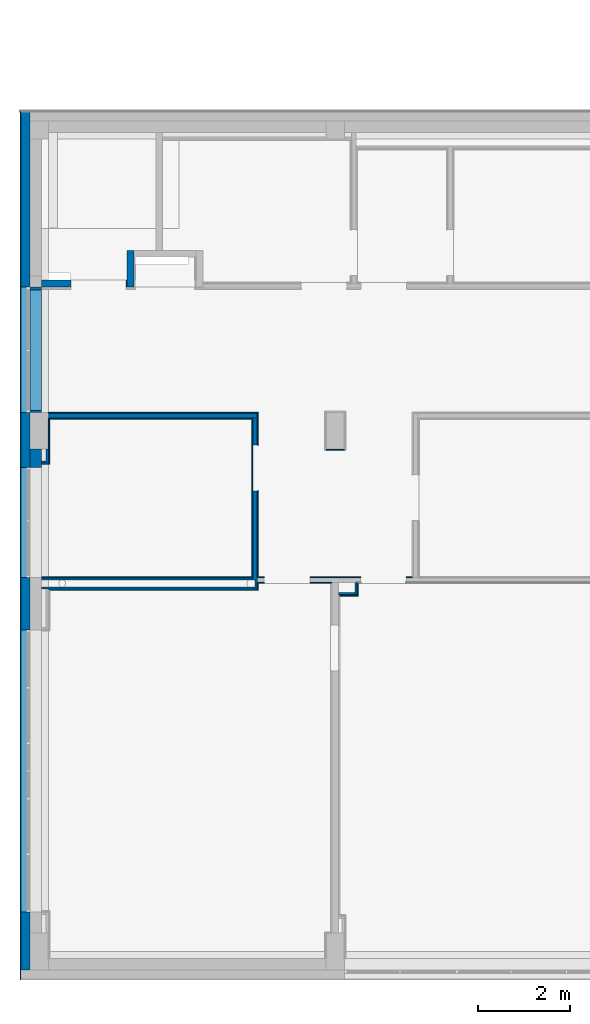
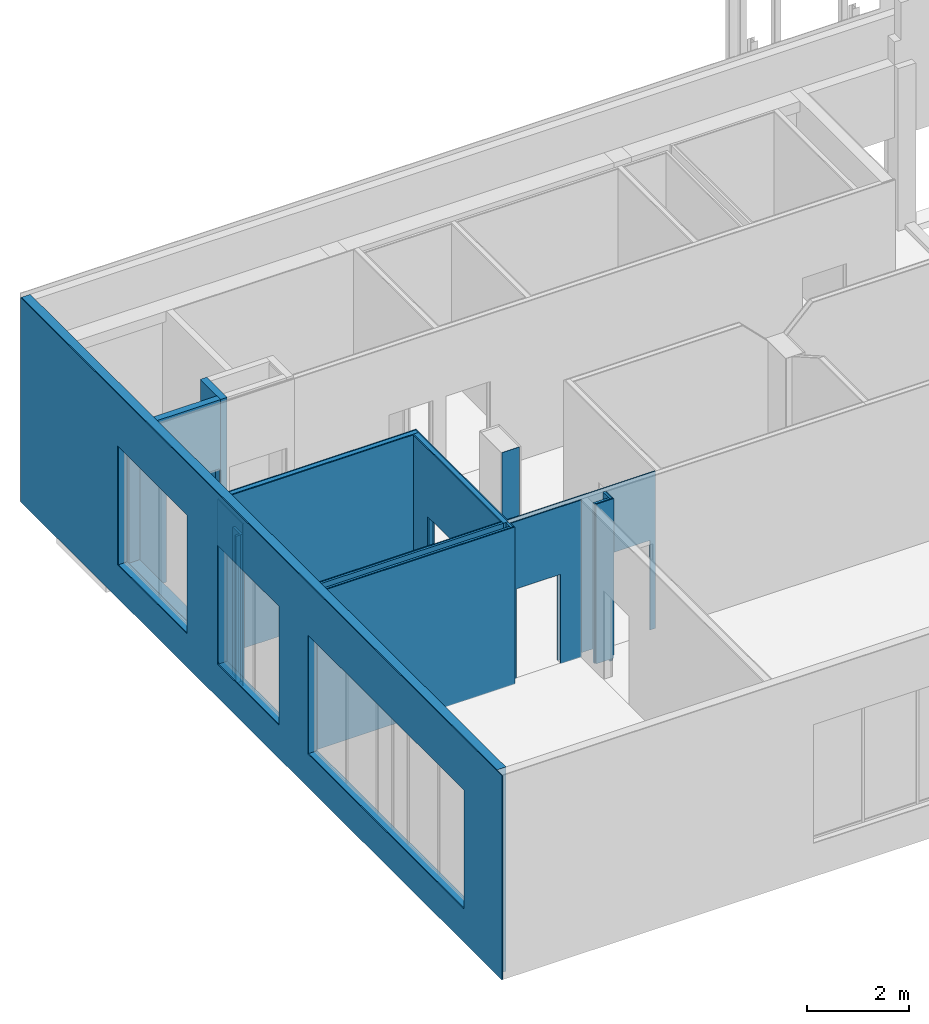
# One storey, part 17 of 29: 29 walls, 15 openings.
"""IFC2X3 building model written with IfcOpenShell, lengths in centimetres."""

from ifc_helpers import new_model, entity, si_unit, converted_unit, derived_unit, direction, frame, frame_2d, origin, origin_2d_with_axis, place, context, subcontext, project, spatial, polyline, rectangle, extrude, clip, bounded_halfspace, material, layer, layer_set, layer_usage, type_object, element, save


model = new_model("IFC2X3")

# Units and contexts
model_context = context("Model", 3, precision=0.001, world=origin(), true_north=direction((6.12303176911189e-17, 1.0)))
body_context = subcontext(model_context, "Body", "Model", "MODEL_VIEW")
ifc_project = project(units=[si_unit("LENGTHUNIT", "METRE", prefix="CENTI"), si_unit("AREAUNIT", "SQUARE_METRE"), si_unit("VOLUMEUNIT", "CUBIC_METRE"), converted_unit("PLANEANGLEUNIT", "DEGREE", entity("IfcRatioMeasure", 0.0174532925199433), si_unit("PLANEANGLEUNIT", "RADIAN"), dimensions=[0, 0, 0, 0, 0, 0, 0]), si_unit("MASSUNIT", "GRAM", prefix="KILO"), derived_unit("MASSDENSITYUNIT", [(si_unit("MASSUNIT", "GRAM", prefix="KILO"), 1), (si_unit("LENGTHUNIT", "METRE"), -3)]), derived_unit("MOMENTOFINERTIAUNIT", [(si_unit("LENGTHUNIT", "METRE"), 4)]), si_unit("TIMEUNIT", "SECOND"), si_unit("FREQUENCYUNIT", "HERTZ"), si_unit("THERMODYNAMICTEMPERATUREUNIT", "DEGREE_CELSIUS"), derived_unit("THERMALTRANSMITTANCEUNIT", [(si_unit("MASSUNIT", "GRAM", prefix="KILO"), 1), (si_unit("THERMODYNAMICTEMPERATUREUNIT", "KELVIN"), -1), (si_unit("TIMEUNIT", "SECOND"), -3)]), derived_unit("VOLUMETRICFLOWRATEUNIT", [(si_unit("LENGTHUNIT", "METRE"), 3), (si_unit("TIMEUNIT", "SECOND"), -1)]), si_unit("ELECTRICCURRENTUNIT", "AMPERE"), si_unit("ELECTRICVOLTAGEUNIT", "VOLT"), si_unit("POWERUNIT", "WATT"), si_unit("FORCEUNIT", "NEWTON", prefix="KILO"), si_unit("ILLUMINANCEUNIT", "LUX"), si_unit("LUMINOUSFLUXUNIT", "LUMEN"), si_unit("LUMINOUSINTENSITYUNIT", "CANDELA"), derived_unit("USERDEFINED", [(si_unit("MASSUNIT", "GRAM", prefix="KILO"), -1), (si_unit("LENGTHUNIT", "METRE"), -2), (si_unit("TIMEUNIT", "SECOND"), 3), (si_unit("LUMINOUSFLUXUNIT", "LUMEN"), 1)]), derived_unit("LINEARVELOCITYUNIT", [(si_unit("LENGTHUNIT", "METRE"), 1), (si_unit("TIMEUNIT", "SECOND"), -1)]), si_unit("PRESSUREUNIT", "PASCAL"), derived_unit("USERDEFINED", [(si_unit("LENGTHUNIT", "METRE"), -2), (si_unit("MASSUNIT", "GRAM", prefix="KILO"), 1), (si_unit("TIMEUNIT", "SECOND"), -2)]), derived_unit("LINEARFORCEUNIT", [(si_unit("MASSUNIT", "GRAM", prefix="KILO"), 1), (si_unit("LENGTHUNIT", "METRE"), 1), (si_unit("TIMEUNIT", "SECOND"), -2), (si_unit("LENGTHUNIT", "METRE"), -1)]), derived_unit("PLANARFORCEUNIT", [(si_unit("MASSUNIT", "GRAM", prefix="KILO"), 1), (si_unit("LENGTHUNIT", "METRE"), 1), (si_unit("TIMEUNIT", "SECOND"), -2), (si_unit("LENGTHUNIT", "METRE"), -2)])], contexts=[model_context])

# Site, building, storey
site_placement = place(None, origin())
site = spatial("IfcSite", under=ifc_project, at=site_placement, Name="Default", CompositionType="ELEMENT")
building_placement = place(site_placement, origin())
building = spatial("IfcBuilding", under=site, at=building_placement, CompositionType="ELEMENT")
storey_placement = place(building_placement, frame((0.0, 0.0, 545.0)))
storey = spatial("IfcBuildingStorey", under=building, at=storey_placement, Name="Poziom 1K +5,45", CompositionType="ELEMENT", Elevation=544.999999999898)

# Wall
ifc_material_1 = material(Name="_Beton C30/37")
ifc_layer_1 = layer(ifc_material_1, 25.0)
ifc_layer_set_1 = layer_set([ifc_layer_1], Name="Ściana podstawowa:Ściana żelbetowa gr. 25cm")
ifc_layer_usage_1 = layer_usage(ifc_layer_set_1, "AXIS2", "NEGATIVE", 12.5)
wall_type_1 = type_object("IfcWallType", Name="Ściana podstawowa:Ściana żelbetowa gr. 25cm", PredefinedType="STANDARD", material=ifc_layer_set_1)
wall_1_placement = place(storey_placement, frame((-2921.76510381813, 1390.12745208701, 0.0), z_axis=(0.0, 0.0, 1.0), x_axis=(0.0, -1.0, 0.0)))
element("IfcWallStandardCase", 1, at=wall_1_placement, inside=storey, type_object=wall_type_1, material=ifc_layer_usage_1, Name="Ściana podstawowa:Ściana żelbetowa gr. 25cm", ObjectType="Ściana podstawowa:Ściana żelbetowa gr. 25cm", context=body_context, shape_type="SweptSolid", body=[
    extrude(rectangle(XDim=40.0, YDim=25.0000000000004, at=frame_2d((20.0, 0.0), x_axis=(-1.0, 0.0))), origin(), (0.0, 0.0, 1.0), 365.000000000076),
])

# Wall, opening
ifc_material_2 = material(Name="Pustak ceramiczny, klasa 15")
ifc_layer_2 = layer(ifc_material_2, 25.0)
ifc_layer_set_2 = layer_set([ifc_layer_2], Name="Ściana podstawowa:Ściana murowana gr. 25cm")
ifc_layer_usage_2 = layer_usage(ifc_layer_set_2, "AXIS2", "POSITIVE", -12.5)
wall_type_2 = type_object("IfcWallType", Name="Ściana podstawowa:Ściana murowana gr. 25cm", PredefinedType="STANDARD", material=ifc_layer_set_2)
wall_2_placement = place(storey_placement, frame((-2921.76510657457, 1743.1274520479, 0.0), z_axis=(0.0, 0.0, 1.0), x_axis=(0.0, -1.0, 0.0)))
wall_2 = element("IfcWallStandardCase", 2, at=wall_2_placement, inside=storey, type_object=wall_type_2, material=ifc_layer_usage_2, Name="Ściana podstawowa:Ściana murowana gr. 25cm", ObjectType="Ściana podstawowa:Ściana murowana gr. 25cm", context=body_context, shape_type="SweptSolid", body=[
    extrude(rectangle(XDim=272.999999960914, YDim=25.0000000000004, at=frame_2d((136.499999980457, -1.77635683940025e-14), x_axis=(-1.0, 0.0))), origin(), (0.0, 0.0, 1.0), 365.000000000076),
])
opening_1_placement = place(wall_2_placement, origin())
element("IfcOpeningElement", 3, at=opening_1_placement, cuts=wall_2, Name="Ściana podstawowa:Ściana murowana gr. 25cm", ObjectType="Opening", context=body_context, shape_type="SweptSolid", body=[
    extrude(rectangle(XDim=285.0, YDim=263.0, at=origin_2d_with_axis()), frame((137.5, -139.9, 222.5), z_axis=(0.0, 1.0, 0.0), x_axis=(0.0, 0.0, -1.0)), (0.0, 0.0, 1.0), 304.8),
])

# Wall
ifc_material_3 = material(Name="Pustak silikatowy")
ifc_layer_3 = layer(ifc_material_3, 15.0)
ifc_layer_set_3 = layer_set([ifc_layer_3], Name="Ściana podstawowa:Ściana murowana bloczki silikatowegr. 15cm")
ifc_layer_usage_3 = layer_usage(ifc_layer_set_3, "AXIS2", "NEGATIVE", 7.5)
wall_type_3 = type_object("IfcWallType", Name="Ściana podstawowa:Ściana murowana bloczki silikatowegr. 15cm", PredefinedType="STANDARD", material=ifc_layer_set_3)
wall_3_placement = place(storey_placement, frame((-2715.26510446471, 1823.12745160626, 0.0), z_axis=(0.0, 0.0, 1.0), x_axis=(0.0, -1.0, 0.0)))
element("IfcWallStandardCase", 4, at=wall_3_placement, inside=storey, type_object=wall_type_3, material=ifc_layer_usage_3, Name="Ściana podstawowa:Ściana murowana bloczki silikatowegr. 15cm", ObjectType="Ściana podstawowa:Ściana murowana bloczki silikatowegr. 15cm", context=body_context, shape_type="SweptSolid", body=[
    extrude(rectangle(XDim=80.0000000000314, YDim=15.0000000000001, at=frame_2d((40.0000000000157, 6.70574706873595e-14), x_axis=(-1.0, 0.0))), origin(), (0.0, 0.0, 1.0), 395.000000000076),
])

# Wall, opening
ifc_layer_usage_4 = layer_usage(ifc_layer_set_3, "AXIS2", "NEGATIVE", 7.5)
wall_4_placement = place(storey_placement, frame((-2909.26510657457, 1750.62745160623, 0.0)))
wall_4 = element("IfcWallStandardCase", 5, at=wall_4_placement, inside=storey, type_object=wall_type_3, material=ifc_layer_usage_4, Name="Ściana podstawowa:Ściana murowana bloczki silikatowegr. 15cm", ObjectType="Ściana podstawowa:Ściana murowana bloczki silikatowegr. 15cm", context=body_context, shape_type="Clipping", body=[
    clip(clip(extrude(rectangle(XDim=186.500002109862, YDim=15.0000000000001, at=frame_2d((93.2500010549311, 1.00364161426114e-13), x_axis=(-1.0, 0.0))), origin(), (0.0, 0.0, 1.0), 395.000000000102), bounded_halfspace(frame((15.0000028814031, -7.49999999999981, 365.0), z_axis=(-1.0, 0.0, 0.0), x_axis=(0.0, 0.0, -1.0)), False, frame((15.0000028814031, -7.49999999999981, 365.0), z_axis=(-1.0, 0.0, 0.0), x_axis=(0.0, 0.0, -1.0)), polyline([(0.0, 0.0), (-30.0, 0.0), (-30.0, -15.0), (0.0, -15.0), (0.0, -12.0000004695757), (0.0, 0.0)]))), bounded_halfspace(frame((15.0000028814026, -7.49999999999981, 365.0), z_axis=(0.0, 0.0, 1.0), x_axis=(-1.0, 0.0, 0.0)), False, frame((15.0000028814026, -7.49999999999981, 365.0), z_axis=(0.0, 0.0, 1.0), x_axis=(-1.0, 0.0, 0.0)), polyline([(0.0, 0.0), (0.0, -12.0000004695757), (0.0, -15.0), (15.0000028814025, -15.0), (15.0000028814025, -12.0000004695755), (15.0000028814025, 0.0), (0.0, 0.0)]))),
])
opening_2_placement = place(wall_4_placement, origin())
element("IfcOpeningElement", 6, at=opening_2_placement, cuts=wall_4, Name="Ściana podstawowa:Ściana murowana bloczki silikatowegr. 15cm", ObjectType="Opening", context=body_context, shape_type="SweptSolid", body=[
    extrude(rectangle(XDim=230.0, YDim=120.0, at=frame_2d((-4.9737991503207e-14, -2.16715534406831e-13), x_axis=(1.0, 0.0))), frame((124.000002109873, -144.9, 115.0), z_axis=(0.0, 1.0, 0.0), x_axis=(0.0, 0.0, -1.0)), (0.0, 0.0, 1.0), 304.8),
])

# Wall
ifc_material_4 = material(Name="Wełna skalna")
ifc_layer_4 = layer(ifc_material_4, 10.0)
ifc_layer_set_4 = layer_set([ifc_layer_4], Name="Ściana podstawowa:Ściana GK rdzeń gr. 10cm")
ifc_layer_usage_5 = layer_usage(ifc_layer_set_4, "AXIS2", "NEGATIVE", 5.0)
wall_type_4 = type_object("IfcWallType", Name="Ściana podstawowa:Ściana GK rdzeń gr. 10cm", PredefinedType="STANDARD", material=ifc_layer_set_4)
wall_5_placement = place(storey_placement, frame((-2894.26510657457, 1462.62745216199, 13.0)))
element("IfcWallStandardCase", 7, at=wall_5_placement, inside=storey, type_object=wall_type_4, material=ifc_layer_usage_5, Name="Ściana podstawowa:Ściana GK rdzeń gr. 10cm", ObjectType="Ściana podstawowa:Ściana GK rdzeń gr. 10cm", context=body_context, shape_type="SweptSolid", body=[
    extrude(rectangle(XDim=454.999980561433, YDim=9.99999999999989, at=frame_2d((227.499990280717, 0.0), x_axis=(-1.0, 0.0))), origin(), (0.0, 0.0, 1.0), 377.000000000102),
])

# Wall, opening
ifc_layer_usage_6 = layer_usage(ifc_layer_set_4, "AXIS2", "POSITIVE", -5.0)
wall_6_placement = place(storey_placement, frame((-2444.26512601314, 1457.62745216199, 13.0), z_axis=(0.0, 0.0, 1.0), x_axis=(0.0, -1.0, 0.0)))
wall_6 = element("IfcWallStandardCase", 8, at=wall_6_placement, inside=storey, type_object=wall_type_4, material=ifc_layer_usage_6, Name="Ściana podstawowa:Ściana GK rdzeń gr. 10cm", ObjectType="Ściana podstawowa:Ściana GK rdzeń gr. 10cm", context=body_context, shape_type="SweptSolid", body=[
    extrude(rectangle(XDim=352.999999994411, YDim=10.0000000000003, at=frame_2d((176.499999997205, -3.10862446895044e-15), x_axis=(-1.0, 0.0))), origin(), (0.0, 0.0, 1.0), 377.000000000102),
])
opening_3_placement = place(wall_6_placement, origin())
element("IfcOpeningElement", 9, at=opening_3_placement, cuts=wall_6, Name="Ściana podstawowa:Ściana GK rdzeń gr. 10cm", ObjectType="Opening", context=body_context, shape_type="SweptSolid", body=[
    extrude(rectangle(XDim=215.0, YDim=100.0, at=frame_2d((0.0, 1.06581410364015e-13), x_axis=(1.0, 0.0))), frame((108.908447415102, -147.4, 107.5), z_axis=(0.0, 1.0, 0.0), x_axis=(0.0, 0.0, -1.0)), (0.0, 0.0, 1.0), 304.8),
])

# Walls
ifc_layer_5 = layer(ifc_material_4, 5.0)
ifc_layer_set_5 = layer_set([ifc_layer_5], Name="Ściana podstawowa:Ściana GK rdzeń gr. 5cm")
ifc_layer_usage_7 = layer_usage(ifc_layer_set_5, "AXIS2", "NEGATIVE", 2.5)
wall_type_5 = type_object("IfcWallType", Name="Ściana podstawowa:Ściana GK rdzeń gr. 5cm", PredefinedType="STANDARD", material=ifc_layer_set_5)
wall_7_placement = place(storey_placement, frame((-2909.26510381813, 1087.12745217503, 13.0)))
element("IfcWallStandardCase", 10, at=wall_7_placement, inside=storey, type_object=wall_type_5, material=ifc_layer_usage_7, Name="Ściana podstawowa:Ściana GK rdzeń gr. 5cm", ObjectType="Ściana podstawowa:Ściana GK rdzeń gr. 5cm", context=body_context, shape_type="Clipping", body=[
    clip(clip(extrude(rectangle(XDim=464.99997780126, YDim=5.00000000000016, at=frame_2d((232.49998890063, 0.0), x_axis=(-1.0, 0.0))), origin(), (0.0, 0.0, 1.0), 377.000000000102), bounded_halfspace(frame((15.0000001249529, 2.50000000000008, 352.0), z_axis=(-1.0, 0.0, 0.0), x_axis=(0.0, 0.0, -1.0)), False, frame((15.0000001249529, 2.50000000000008, 352.0), z_axis=(-1.0, 0.0, 0.0), x_axis=(0.0, 0.0, -1.0)), polyline([(0.0, 0.0), (0.0, 5.0), (-25.0, 5.0), (-25.0, 0.0), (0.0, 0.0)]))), bounded_halfspace(frame((15.0000001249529, -2.49999999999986, 352.0), z_axis=(0.0, 0.0, 1.0), x_axis=(-1.0, 0.0, 0.0)), False, frame((15.0000001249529, -2.49999999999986, 352.0), z_axis=(0.0, 0.0, 1.0), x_axis=(-1.0, 0.0, 0.0)), polyline([(0.0, 0.0), (0.0, -5.0), (15.000000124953, -5.0), (15.000000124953, 0.0), (0.0, 0.0)]))),
])
ifc_layer_usage_8 = layer_usage(ifc_layer_set_5, "AXIS2", "NEGATIVE", 2.5)
wall_8_placement = place(storey_placement, frame((-2441.76512601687, 1084.62745217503, 13.0), z_axis=(0.0, 0.0, 1.0), x_axis=(0.0, 1.0, 0.0)))
element("IfcWallStandardCase", 11, at=wall_8_placement, inside=storey, type_object=wall_type_5, material=ifc_layer_usage_8, Name="Ściana podstawowa:Ściana GK rdzeń gr. 5cm", ObjectType="Ściana podstawowa:Ściana GK rdzeń gr. 5cm", context=body_context, shape_type="SweptSolid", body=[
    extrude(rectangle(XDim=19.9999999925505, YDim=4.99999999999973, at=frame_2d((9.99999999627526, 0.0), x_axis=(-1.0, 0.0))), origin(), (0.0, 0.0, 1.0), 377.000000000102),
])
ifc_layer_usage_9 = layer_usage(ifc_layer_set_5, "AXIS2", "NEGATIVE", 2.5)
wall_9_placement = place(storey_placement, frame((-2909.26510657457, 1107.12745216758, 13.0)))
element("IfcWallStandardCase", 12, at=wall_9_placement, inside=storey, type_object=wall_type_5, material=ifc_layer_usage_9, Name="Ściana podstawowa:Ściana GK rdzeń gr. 5cm", ObjectType="Ściana podstawowa:Ściana GK rdzeń gr. 5cm", context=body_context, shape_type="Clipping", body=[
    clip(clip(extrude(rectangle(XDim=459.999980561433, YDim=5.00000000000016, at=frame_2d((229.999990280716, 0.0), x_axis=(-1.0, 0.0))), origin(), (0.0, 0.0, 1.0), 377.000000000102), bounded_halfspace(frame((15.0000028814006, 2.50000000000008, 352.0), z_axis=(-1.0, 0.0, 0.0), x_axis=(0.0, 0.0, -1.0)), False, frame((15.0000028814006, 2.50000000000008, 352.0), z_axis=(-1.0, 0.0, 0.0), x_axis=(0.0, 0.0, -1.0)), polyline([(0.0, 0.0), (0.0, 5.0), (-25.0, 5.0), (-25.0, 0.0), (0.0, 0.0)]))), bounded_halfspace(frame((15.0000028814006, -2.49999999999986, 352.0), z_axis=(0.0, 0.0, 1.0), x_axis=(-1.0, 0.0, 0.0)), False, frame((15.0000028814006, -2.49999999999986, 352.0), z_axis=(0.0, 0.0, 1.0), x_axis=(-1.0, 0.0, 0.0)), polyline([(0.0, 0.0), (0.0, -5.0), (15.0000028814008, -5.0), (15.0000028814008, 0.0), (0.0, 0.0)]))),
])
ifc_layer_usage_10 = layer_usage(ifc_layer_set_5, "AXIS2", "NEGATIVE", 2.5)
wall_10_placement = place(storey_placement, frame((-2261.7651206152, 1074.62745215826, 7.0)))
element("IfcWallStandardCase", 13, at=wall_10_placement, inside=storey, type_object=wall_type_5, material=ifc_layer_usage_10, Name="Ściana podstawowa:Ściana GK rdzeń gr. 5cm", ObjectType="Ściana podstawowa:Ściana GK rdzeń gr. 5cm", context=body_context, shape_type="Clipping", body=[
    clip(extrude(rectangle(XDim=35.0000054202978, YDim=5.00000000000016, at=frame_2d((17.5000027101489, 0.0), x_axis=(-1.0, 0.0))), origin(), (0.0, 0.0, 1.0), 383.000000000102), bounded_halfspace(frame((35.0000054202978, -2.49999999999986, 0.0), z_axis=(0.0, 0.0, 1.0), x_axis=(0.0, -1.0, 0.0)), True, frame((35.0000054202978, -2.49999999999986, 0.0), z_axis=(0.0, 0.0, 1.0), x_axis=(0.0, -1.0, 0.0)), polyline([(0.0, 0.0), (-5.0, 0.0), (-5.0, -35.0000054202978), (0.0, -35.0000054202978), (0.0, -32.5000054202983), (0.0, 0.0)]))),
])
ifc_layer_usage_11 = layer_usage(ifc_layer_set_5, "AXIS2", "NEGATIVE", 2.5)
wall_11_placement = place(storey_placement, frame((-2224.2651151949, 1072.12745215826, 0.0), z_axis=(0.0, 0.0, 1.0), x_axis=(0.0, 1.0, 0.0)))
element("IfcWallStandardCase", 14, at=wall_11_placement, inside=storey, type_object=wall_type_5, material=ifc_layer_usage_11, Name="Ściana podstawowa:Ściana GK rdzeń gr. 5cm", ObjectType="Ściana podstawowa:Ściana GK rdzeń gr. 5cm", context=body_context, shape_type="SweptSolid", body=[
    extrude(rectangle(XDim=27.5000000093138, YDim=4.99999999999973, at=frame_2d((13.7500000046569, 0.0), x_axis=(-1.0, 0.0))), origin(), (0.0, 0.0, 1.0), 390.000000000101),
])
ifc_layer_usage_12 = layer_usage(ifc_layer_set_5, "AXIS2", "NEGATIVE", 2.5)
wall_12_placement = place(storey_placement, frame((-2896.76511742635, 1390.12745210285, 13.0), z_axis=(0.0, 0.0, 1.0), x_axis=(0.0, -1.0, 0.0)))
element("IfcWallStandardCase", 15, at=wall_12_placement, inside=storey, type_object=wall_type_5, material=ifc_layer_usage_12, Name="Ściana podstawowa:Ściana GK rdzeń gr. 5cm", ObjectType="Ściana podstawowa:Ściana GK rdzeń gr. 5cm", context=body_context, shape_type="Clipping", body=[
    clip(extrude(rectangle(XDim=31.0000015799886, YDim=4.99999999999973, at=frame_2d((15.5000007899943, 0.0), x_axis=(-1.0, 0.0))), origin(), (0.0, 0.0, 1.0), 351.99999999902), bounded_halfspace(frame((0.0, -2.5000000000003, 352.0), z_axis=(0.0, 0.0, 1.0), x_axis=(0.0, -1.0, 0.0)), False, frame((0.0, -2.5000000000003, 352.0), z_axis=(0.0, 0.0, 1.0), x_axis=(0.0, -1.0, 0.0)), polyline([(0.0, 0.0), (0.0, 31.0000015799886), (-5.0, 31.0000015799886), (-5.0, 0.0), (0.0, 0.0)]))),
])
ifc_layer_usage_13 = layer_usage(ifc_layer_set_5, "AXIS2", "NEGATIVE", 2.5)
wall_13_placement = place(storey_placement, frame((-2899.26511742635, 1361.62745234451, 13.0), z_axis=(0.0, 0.0, 1.0), x_axis=(-1.0, 0.0, 0.0)))
element("IfcWallStandardCase", 16, at=wall_13_placement, inside=storey, type_object=wall_type_5, material=ifc_layer_usage_13, Name="Ściana podstawowa:Ściana GK rdzeń gr. 5cm", ObjectType="Ściana podstawowa:Ściana GK rdzeń gr. 5cm", context=body_context, shape_type="Clipping", body=[
    clip(extrude(rectangle(XDim=9.99998639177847, YDim=5.00000000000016, at=frame_2d((4.99999319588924, 0.0), x_axis=(-1.0, 0.0))), origin(), (0.0, 0.0, 1.0), 351.99999999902), bounded_halfspace(frame((0.0, -2.49999999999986, 352.0)), False, frame((0.0, -2.49999999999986, 352.0)), polyline([(0.0, 0.0), (9.99998639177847, 0.0), (9.99998639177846, 5.0), (0.0, 5.0), (0.0, 0.0)]))),
])
ifc_material_5 = material(Name="Tynk gipsowy")
ifc_layer_6 = layer(ifc_material_5, 2.5)
ifc_layer_set_6 = layer_set([ifc_layer_6], Name="Ściana podstawowa:Ściana GK wykonczenie gr. 2,5cm")
ifc_layer_usage_14 = layer_usage(ifc_layer_set_6, "AXIS2", "NEGATIVE", 1.25)
wall_type_6 = type_object("IfcWallType", Name="Ściana podstawowa:Ściana GK wykonczenie gr. 2,5cm", PredefinedType="STANDARD", material=ifc_layer_set_6)
wall_14_placement = place(storey_placement, frame((-2894.26510657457, 1468.87745208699, 13.0)))
element("IfcWallStandardCase", 17, at=wall_14_placement, inside=storey, type_object=wall_type_6, material=ifc_layer_usage_14, Name="Ściana podstawowa:Ściana GK wykonczenie gr. 2,5cm", ObjectType="Ściana podstawowa:Ściana GK wykonczenie gr. 2,5cm", context=body_context, shape_type="SweptSolid", body=[
    extrude(rectangle(XDim=457.499980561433, YDim=2.49999999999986, at=frame_2d((228.749990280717, 0.0), x_axis=(-1.0, 0.0))), origin(), (0.0, 0.0, 1.0), 377.000000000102),
])

# Wall, opening
ifc_layer_usage_15 = layer_usage(ifc_layer_set_6, "AXIS2", "NEGATIVE", 1.25)
wall_15_placement = place(storey_placement, frame((-2438.01512601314, 1470.12745208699, 13.0), z_axis=(0.0, 0.0, 1.0), x_axis=(0.0, -1.0, 0.0)))
wall_15 = element("IfcWallStandardCase", 18, at=wall_15_placement, inside=storey, type_object=wall_type_6, material=ifc_layer_usage_15, Name="Ściana podstawowa:Ściana GK wykonczenie gr. 2,5cm", ObjectType="Ściana podstawowa:Ściana GK wykonczenie gr. 2,5cm", context=body_context, shape_type="SweptSolid", body=[
    extrude(rectangle(XDim=360.499999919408, YDim=2.5000000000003, at=frame_2d((180.249999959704, 0.0), x_axis=(-1.0, 0.0))), origin(), (0.0, 0.0, 1.0), 377.000000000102),
])
opening_4_placement = place(wall_15_placement, origin())
element("IfcOpeningElement", 19, at=opening_4_placement, cuts=wall_15, Name="Ściana podstawowa:Ściana GK wykonczenie gr. 2,5cm", ObjectType="Opening", context=body_context, shape_type="SweptSolid", body=[
    extrude(rectangle(XDim=215.0, YDim=100.0, at=frame_2d((0.0, 1.06581410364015e-13), x_axis=(1.0, 0.0))), frame((121.408447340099, -153.649999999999, 107.5), z_axis=(0.0, 1.0, 0.0), x_axis=(0.0, 0.0, -1.0)), (0.0, 0.0, 1.0), 304.8),
])

# Wall, openings
ifc_layer_usage_16 = layer_usage(ifc_layer_set_6, "AXIS2", "NEGATIVE", 1.25)
wall_16_placement = place(storey_placement, frame((-2436.76512601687, 1110.87745218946, 13.0)))
wall_16 = element("IfcWallStandardCase", 20, at=wall_16_placement, inside=storey, type_object=wall_type_6, material=ifc_layer_usage_16, Name="Ściana podstawowa:Ściana GK wykonczenie gr. 2,5cm", ObjectType="Ściana podstawowa:Ściana GK wykonczenie gr. 2,5cm", context=body_context, shape_type="SweptSolid", body=[
    extrude(rectangle(XDim=335.000010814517, YDim=2.49999999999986, at=frame_2d((167.500005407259, 0.0), x_axis=(-1.0, 0.0))), origin(), (0.0, 0.0, 1.0), 377.000000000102),
])
opening_5_placement = place(wall_16_placement, origin())
element("IfcOpeningElement", 21, at=opening_5_placement, cuts=wall_16, Name="Ściana podstawowa:Ściana GK wykonczenie gr. 2,5cm", ObjectType="Opening", context=body_context, shape_type="SweptSolid", body=[
    extrude(rectangle(XDim=215.0, YDim=99.9999999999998, at=origin_2d_with_axis()), frame((62.499999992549, -153.650000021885, 107.5), z_axis=(0.0, 1.0, 0.0), x_axis=(0.0, 0.0, -1.0)), (0.0, 0.0, 1.0), 304.8),
])
opening_6_placement = place(wall_16_placement, origin())
element("IfcOpeningElement", 22, at=opening_6_placement, cuts=wall_16, Name="Ściana podstawowa:Ściana GK wykonczenie gr. 2,5cm", ObjectType="Opening", context=body_context, shape_type="SweptSolid", body=[
    extrude(rectangle(XDim=215.0, YDim=100.0, at=frame_2d((0.0, 0.0), x_axis=(0.0, 1.0))), frame((272.500010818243, -163.650000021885, 107.5), z_axis=(0.0, 1.0, 0.0), x_axis=(1.0, 0.0, 0.0)), (0.0, 0.0, 1.0), 304.8),
])

# Walls
ifc_layer_usage_17 = layer_usage(ifc_layer_set_6, "AXIS2", "NEGATIVE", 1.25)
wall_17_placement = place(storey_placement, frame((-2894.26511742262, 1083.37745217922, 13.0)))
element("IfcWallStandardCase", 23, at=wall_17_placement, inside=storey, type_object=wall_type_6, material=ifc_layer_usage_17, Name="Ściana podstawowa:Ściana GK wykonczenie gr. 2,5cm", ObjectType="Ściana podstawowa:Ściana GK wykonczenie gr. 2,5cm", context=body_context, shape_type="SweptSolid", body=[
    extrude(rectangle(XDim=457.49999140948, YDim=2.49999999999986, at=frame_2d((228.74999570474, 0.0), x_axis=(-1.0, 0.0))), origin(), (0.0, 0.0, 1.0), 377.000000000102),
])
ifc_layer_usage_18 = layer_usage(ifc_layer_set_6, "AXIS2", "NEGATIVE", 1.25)
wall_18_placement = place(storey_placement, frame((-2438.01512601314, 1084.62745217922, 13.0), z_axis=(0.0, 0.0, 1.0), x_axis=(0.0, 1.0, 0.0)))
element("IfcWallStandardCase", 24, at=wall_18_placement, inside=storey, type_object=wall_type_6, material=ifc_layer_usage_18, Name="Ściana podstawowa:Ściana GK wykonczenie gr. 2,5cm", ObjectType="Ściana podstawowa:Ściana GK wykonczenie gr. 2,5cm", context=body_context, shape_type="SweptSolid", body=[
    extrude(rectangle(XDim=14.9999999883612, YDim=2.5000000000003, at=frame_2d((7.49999999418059, 0.0), x_axis=(-1.0, 0.0))), origin(), (0.0, 0.0, 1.0), 377.000000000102),
])

# Wall, opening
ifc_layer_usage_19 = layer_usage(ifc_layer_set_6, "AXIS2", "NEGATIVE", 1.25)
wall_19_placement = place(storey_placement, frame((-2436.76512601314, 1098.37745216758, 13.0)))
wall_19 = element("IfcWallStandardCase", 25, at=wall_19_placement, inside=storey, type_object=wall_type_6, material=ifc_layer_usage_19, Name="Ściana podstawowa:Ściana GK wykonczenie gr. 2,5cm", ObjectType="Ściana podstawowa:Ściana GK wykonczenie gr. 2,5cm", context=body_context, shape_type="SweptSolid", body=[
    extrude(rectangle(XDim=160.000005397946, YDim=2.49999999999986, at=frame_2d((80.0000026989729, 0.0), x_axis=(-1.0, 0.0))), origin(), (0.0, 0.0, 1.0), 377.000000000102),
])
opening_7_placement = place(wall_19_placement, origin())
element("IfcOpeningElement", 26, at=opening_7_placement, cuts=wall_19, Name="Ściana podstawowa:Ściana GK wykonczenie gr. 2,5cm", ObjectType="Opening", context=body_context, shape_type="SweptSolid", body=[
    extrude(rectangle(XDim=215.0, YDim=99.9999999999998, at=origin_2d_with_axis()), frame((62.4999999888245, -141.15, 107.5), z_axis=(0.0, 1.0, 0.0), x_axis=(0.0, 0.0, -1.0)), (0.0, 0.0, 1.0), 304.8),
])

# Wall
ifc_layer_usage_20 = layer_usage(ifc_layer_set_6, "AXIS2", "NEGATIVE", 1.25)
wall_20_placement = place(storey_placement, frame((-2909.26510657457, 1110.87745218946, 13.0)))
element("IfcWallStandardCase", 27, at=wall_20_placement, inside=storey, type_object=wall_type_6, material=ifc_layer_usage_20, Name="Ściana podstawowa:Ściana GK wykonczenie gr. 2,5cm", ObjectType="Ściana podstawowa:Ściana GK wykonczenie gr. 2,5cm", context=body_context, shape_type="Clipping", body=[
    clip(clip(extrude(rectangle(XDim=459.999980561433, YDim=2.49999999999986, at=frame_2d((229.999990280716, 0.0), x_axis=(-1.0, 0.0))), origin(), (0.0, 0.0, 1.0), 377.000000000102), bounded_halfspace(frame((15.0000028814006, 1.24999999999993, 352.0), z_axis=(-1.0, 0.0, 0.0), x_axis=(0.0, 0.0, -1.0)), False, frame((15.0000028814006, 1.24999999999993, 352.0), z_axis=(-1.0, 0.0, 0.0), x_axis=(0.0, 0.0, -1.0)), polyline([(0.0, 0.0), (0.0, 2.50000000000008), (-25.0, 2.50000000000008), (-25.0, 0.0), (0.0, 0.0)]))), bounded_halfspace(frame((15.0000028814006, -1.25000000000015, 352.0), z_axis=(0.0, 0.0, 1.0), x_axis=(-1.0, 0.0, 0.0)), False, frame((15.0000028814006, -1.25000000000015, 352.0), z_axis=(0.0, 0.0, 1.0), x_axis=(-1.0, 0.0, 0.0)), polyline([(0.0, 0.0), (0.0, -2.50000000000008), (15.0000028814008, -2.5000000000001), (15.0000028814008, 0.0), (0.0, 0.0)]))),
])

# Wall, opening
ifc_layer_usage_21 = layer_usage(ifc_layer_set_6, "AXIS2", "NEGATIVE", 1.25)
wall_21_placement = place(storey_placement, frame((-2450.51436460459, 1112.12745218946, 0.0), z_axis=(0.0, 0.0, 1.0), x_axis=(0.0, 1.0, 0.0)))
wall_21 = element("IfcWallStandardCase", 28, at=wall_21_placement, inside=storey, type_object=wall_type_6, material=ifc_layer_usage_21, Name="Ściana podstawowa:Ściana GK wykonczenie gr. 2,5cm", ObjectType="Ściana podstawowa:Ściana GK wykonczenie gr. 2,5cm", context=body_context, shape_type="SweptSolid", body=[
    extrude(rectangle(XDim=345.499999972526, YDim=2.5000000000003, at=frame_2d((172.749999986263, 1.55431223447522e-15), x_axis=(-1.0, 0.0))), origin(), (0.0, 0.0, 1.0), 390.000000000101),
])
opening_8_placement = place(wall_21_placement, origin())
element("IfcOpeningElement", 29, at=opening_8_placement, cuts=wall_21, Name="Ściana podstawowa:Ściana GK wykonczenie gr. 2,5cm", ObjectType="Opening", context=body_context, shape_type="SweptSolid", body=[
    extrude(rectangle(XDim=215.0, YDim=99.9999999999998, at=frame_2d((-1.10134124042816e-13, 0.0), x_axis=(0.0, 1.0))), frame((236.591552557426, -163.649238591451, 120.5), z_axis=(0.0, 1.0, 0.0), x_axis=(1.0, 0.0, 0.0)), (0.0, 0.0, 1.0), 304.8),
])

# Walls
ifc_layer_usage_22 = layer_usage(ifc_layer_set_6, "AXIS2", "NEGATIVE", 1.25)
wall_22_placement = place(storey_placement, frame((-2451.76436460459, 1456.37745214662, 13.0), z_axis=(0.0, 0.0, 1.0), x_axis=(-1.0, 0.0, 0.0)))
element("IfcWallStandardCase", 30, at=wall_22_placement, inside=storey, type_object=wall_type_6, material=ifc_layer_usage_22, Name="Ściana podstawowa:Ściana GK wykonczenie gr. 2,5cm", ObjectType="Ściana podstawowa:Ściana GK wykonczenie gr. 2,5cm", context=body_context, shape_type="SweptSolid", body=[
    extrude(rectangle(XDim=440.000752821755, YDim=2.49999999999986, at=frame_2d((220.000376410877, 0.0), x_axis=(-1.0, 0.0))), origin(), (0.0, 0.0, 1.0), 377.000000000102),
])
ifc_layer_usage_23 = layer_usage(ifc_layer_set_6, "AXIS2", "NEGATIVE", 1.25)
wall_23_placement = place(storey_placement, frame((-2893.01511742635, 1457.62745214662, 0.0), z_axis=(0.0, 0.0, 1.0), x_axis=(0.0, -1.0, 0.0)))
element("IfcWallStandardCase", 31, at=wall_23_placement, inside=storey, type_object=wall_type_6, material=ifc_layer_usage_23, Name="Ściana podstawowa:Ściana GK wykonczenie gr. 2,5cm", ObjectType="Ściana podstawowa:Ściana GK wykonczenie gr. 2,5cm", context=body_context, shape_type="SweptSolid", body=[
    extrude(rectangle(XDim=98.5000016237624, YDim=2.5000000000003, at=frame_2d((49.2500008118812, 0.0), x_axis=(-1.0, 0.0))), origin(), (0.0, 0.0, 1.0), 390.000000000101),
])
ifc_layer_usage_24 = layer_usage(ifc_layer_set_6, "AXIS2", "NEGATIVE", 1.25)
wall_24_placement = place(storey_placement, frame((-2891.76511742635, 1357.87745052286, 13.0), z_axis=(0.0, 0.0, 1.0), x_axis=(-1.0, 0.0, 0.0)))
element("IfcWallStandardCase", 32, at=wall_24_placement, inside=storey, type_object=wall_type_6, material=ifc_layer_usage_24, Name="Ściana podstawowa:Ściana GK wykonczenie gr. 2,5cm", ObjectType="Ściana podstawowa:Ściana GK wykonczenie gr. 2,5cm", context=body_context, shape_type="Clipping", body=[
    clip(clip(extrude(rectangle(XDim=17.4999863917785, YDim=2.49999999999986, at=frame_2d((8.74999319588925, 0.0), x_axis=(-1.0, 0.0))), origin(), (0.0, 0.0, 1.0), 377.000000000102), bounded_halfspace(frame((2.49998626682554, -1.25000000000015, 352.0), z_axis=(1.0, 0.0, 0.0), x_axis=(0.0, 0.0, -1.0)), False, frame((2.49998626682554, -1.25000000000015, 352.0), z_axis=(1.0, 0.0, 0.0), x_axis=(0.0, 0.0, -1.0)), polyline([(0.0, 0.0), (0.0, 2.50000000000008), (-25.0, 2.50000000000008), (-25.0, 0.0), (0.0, 0.0)]))), bounded_halfspace(frame((2.49998626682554, 1.24999999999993, 352.0)), False, frame((2.49998626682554, 1.24999999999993, 352.0)), polyline([(0.0, 0.0), (0.0, -2.50000000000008), (15.000000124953, -2.50000000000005), (15.000000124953, 0.0), (0.0, 0.0)]))),
])
ifc_layer_usage_25 = layer_usage(ifc_layer_set_6, "AXIS2", "NEGATIVE", 1.25)
wall_25_placement = place(storey_placement, frame((-2259.2651206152, 1070.87745215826, 7.0)))
element("IfcWallStandardCase", 33, at=wall_25_placement, inside=storey, type_object=wall_type_6, material=ifc_layer_usage_25, Name="Ściana podstawowa:Ściana GK wykonczenie gr. 2,5cm", ObjectType="Ściana podstawowa:Ściana GK wykonczenie gr. 2,5cm", context=body_context, shape_type="Clipping", body=[
    clip(extrude(rectangle(XDim=40.0000054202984, YDim=2.49999999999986, at=frame_2d((20.0000027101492, 0.0), x_axis=(-1.0, 0.0))), origin(), (0.0, 0.0, 1.0), 383.000000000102), bounded_halfspace(frame((40.0000054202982, -1.25000000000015, 0.0), z_axis=(0.0, 0.0, 1.0), x_axis=(0.0, -1.0, 0.0)), True, frame((40.0000054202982, -1.25000000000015, 0.0), z_axis=(0.0, 0.0, 1.0), x_axis=(0.0, -1.0, 0.0)), polyline([(0.0, 0.0), (-2.50000000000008, 0.0), (-2.5000000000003, -40.0000054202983), (0.0, -40.0000054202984), (0.0, 0.0)]))),
])
ifc_layer_usage_26 = layer_usage(ifc_layer_set_6, "AXIS2", "NEGATIVE", 1.25)
wall_26_placement = place(storey_placement, frame((-2220.5151151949, 1072.12745215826, 0.0), z_axis=(0.0, 0.0, 1.0), x_axis=(0.0, 1.0, 0.0)))
element("IfcWallStandardCase", 34, at=wall_26_placement, inside=storey, type_object=wall_type_6, material=ifc_layer_usage_26, Name="Ściana podstawowa:Ściana GK wykonczenie gr. 2,5cm", ObjectType="Ściana podstawowa:Ściana GK wykonczenie gr. 2,5cm", context=body_context, shape_type="SweptSolid", body=[
    extrude(rectangle(XDim=25.0000000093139, YDim=2.5000000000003, at=frame_2d((12.500000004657, 0.0), x_axis=(-1.0, 0.0))), origin(), (0.0, 0.0, 1.0), 390.000000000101),
])
ifc_layer_7 = layer(ifc_material_5, 2.5)
ifc_layer_set_7 = layer_set([ifc_layer_7], Name="Ściana podstawowa:Tynk wykończenie gr. 2,5cm")
ifc_layer_usage_27 = layer_usage(ifc_layer_set_7, "AXIS2", "NEGATIVE", 1.25)
wall_type_7 = type_object("IfcWallType", Name="Ściana podstawowa:Tynk wykończenie gr. 2,5cm", PredefinedType="STANDARD", material=ifc_layer_set_7)
wall_27_placement = place(storey_placement, frame((-2249.26512060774, 1388.87745210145, 13.0), z_axis=(0.0, 0.0, 1.0), x_axis=(-1.0, 0.0, 0.0)))
element("IfcWallStandardCase", 35, at=wall_27_placement, inside=storey, type_object=wall_type_7, material=ifc_layer_usage_27, Name="Ściana podstawowa:Tynk wykończenie gr. 2,5cm", ObjectType="Ściana podstawowa:Tynk wykończenie gr. 2,5cm", context=body_context, shape_type="Clipping", body=[
    clip(extrude(rectangle(XDim=40.0000000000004, YDim=2.49999999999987, at=frame_2d((20.0000000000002, -6.32827124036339e-15), x_axis=(-1.0, 0.0))), origin(), (0.0, 0.0, 1.0), 318.42857142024), bounded_halfspace(frame((0.0, -1.25000000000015, 317.0), z_axis=(0.0, 0.496138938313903, -0.868243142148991), x_axis=(-1.0, 0.0, 0.0)), True, frame((0.0, -1.25000000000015, 317.0), z_axis=(0.0, 0.496138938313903, -0.868243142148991), x_axis=(-1.0, 0.0, 0.0)), polyline([(0.0, 0.0), (0.0, 2.87937776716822), (-40.0, 2.87937776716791), (-40.0, 0.0), (0.0, 0.0)]))),
])

# Wall, openings
ifc_layer_8 = layer(ifc_material_4, 20.0)
ifc_layer_set_8 = layer_set([ifc_layer_8], Name="Ściana podstawowa:Wełna mineralna gr. 20cm")
ifc_layer_usage_28 = layer_usage(ifc_layer_set_8, "AXIS2", "NEGATIVE", 10.0)
wall_type_8 = type_object("IfcWallType", Name="Ściana podstawowa:Wełna mineralna gr. 20cm", PredefinedType="STANDARD", material=ifc_layer_set_8)
wall_28_placement = place(storey_placement, frame((-2944.26510657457, 2125.12745061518, 0.0), z_axis=(0.0, 0.0, 1.0), x_axis=(0.0, -1.0, 0.0)))
wall_28 = element("IfcWallStandardCase", 36, at=wall_28_placement, inside=storey, type_object=wall_type_8, material=ifc_layer_usage_28, Name="Ściana podstawowa:Wełna mineralna gr. 20cm", ObjectType="Ściana podstawowa:Wełna mineralna gr. 20cm", context=body_context, shape_type="SweptSolid", body=[
    extrude(rectangle(XDim=1870.0, YDim=19.9999999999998, at=frame_2d((935.0, 1.59872115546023e-14), x_axis=(-1.0, 0.0))), origin(), (0.0, 0.0, 1.0), 490.000000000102),
])
opening_9_placement = place(wall_28_placement, origin())
element("IfcOpeningElement", 37, at=opening_9_placement, cuts=wall_28, Name="Ściana podstawowa:Wełna mineralna gr. 20cm", ObjectType="Opening", context=body_context, shape_type="SweptSolid", body=[
    extrude(rectangle(XDim=285.0, YDim=263.0, at=origin_2d_with_axis()), frame((519.499998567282, -117.4, 222.500000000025), z_axis=(0.0, 1.0, 0.0), x_axis=(0.0, 0.0, -1.0)), (0.0, 0.0, 1.0), 304.8),
])
opening_10_placement = place(wall_28_placement, origin())
element("IfcOpeningElement", 38, at=opening_10_placement, cuts=wall_28, Name="Ściana podstawowa:Wełna mineralna gr. 20cm", ObjectType="Opening", context=body_context, shape_type="SweptSolid", body=[
    extrude(rectangle(XDim=284.999999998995, YDim=240.500001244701, at=frame_2d((-5.6843418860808e-14, 0.0), x_axis=(1.0, 0.0))), frame((895.249999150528, 10.0, 222.499999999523), z_axis=(0.0, -1.0, 0.0), x_axis=(0.0, 0.0, -1.0)), (0.0, 0.0, 1.0), 20.0),
])
opening_11_placement = place(wall_28_placement, origin())
element("IfcOpeningElement", 39, at=opening_11_placement, cuts=wall_28, Name="Ściana podstawowa:Wełna mineralna gr. 20cm", ObjectType="Opening", context=body_context, shape_type="SweptSolid", body=[
    extrude(rectangle(XDim=284.999999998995, YDim=615.000206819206, at=frame_2d((-5.6843418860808e-14, 0.0), x_axis=(1.0, 0.0))), frame((1436.49989641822, 10.0, 222.499999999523), z_axis=(0.0, -1.0, 0.0), x_axis=(0.0, 0.0, -1.0)), (0.0, 0.0, 1.0), 20.0),
])
opening_12_placement = place(wall_28_placement, origin())
element("IfcOpeningElement", 40, at=opening_12_placement, cuts=wall_28, Name="Ściana podstawowa:Wełna mineralna gr. 20cm", ObjectType="Opening", context=body_context, shape_type="SweptSolid", body=[
    extrude(rectangle(XDim=284.999999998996, YDim=272.999999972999, at=frame_2d((-9.9475983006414e-14, 0.0), x_axis=(0.0, 1.0))), frame((518.499998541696, 10.0, 222.499999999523), z_axis=(0.0, -1.0, 0.0), x_axis=(1.0, 0.0, 0.0)), (0.0, 0.0, 1.0), 20.0),
])

ifc_layer_9 = layer(ifc_material_5, 2.0)
ifc_layer_set_9 = layer_set([ifc_layer_9], Name="Ściana podstawowa:Tynk zewnętrzny gr. 2cm")
ifc_layer_usage_29 = layer_usage(ifc_layer_set_9, "AXIS2", "NEGATIVE", 1.0)
wall_type_9 = type_object("IfcWallType", Name="Ściana podstawowa:Tynk zewnętrzny gr. 2cm", PredefinedType="STANDARD", material=ifc_layer_set_9)
wall_29_placement = place(storey_placement, frame((-2955.26512060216, 2125.12745202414, 0.0), z_axis=(0.0, 0.0, 1.0), x_axis=(0.0, -1.0, 0.0)))
wall_29 = element("IfcWallStandardCase", 41, at=wall_29_placement, inside=storey, type_object=wall_type_9, material=ifc_layer_usage_29, Name="Ściana podstawowa:Tynk zewnętrzny gr. 2cm", ObjectType="Ściana podstawowa:Tynk zewnętrzny gr. 2cm", context=body_context, shape_type="SweptSolid", body=[
    extrude(rectangle(XDim=1892.0, YDim=2.00000000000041, at=frame_2d((946.0, 7.7715611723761e-16), x_axis=(-1.0, 0.0))), origin(), (0.0, 0.0, 1.0), 490.000000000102),
])
opening_13_placement = place(wall_29_placement, origin())
element("IfcOpeningElement", 42, at=opening_13_placement, cuts=wall_29, Name="Ściana podstawowa:Tynk zewnętrzny gr. 2cm", ObjectType="Opening", context=body_context, shape_type="SweptSolid", body=[
    extrude(rectangle(XDim=284.999999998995, YDim=240.500001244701, at=frame_2d((-5.6843418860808e-14, 0.0), x_axis=(1.0, 0.0))), frame((895.250000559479, 1.0, 222.499999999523), z_axis=(0.0, -1.0, 0.0), x_axis=(0.0, 0.0, -1.0)), (0.0, 0.0, 1.0), 2.0),
])
opening_14_placement = place(wall_29_placement, origin())
element("IfcOpeningElement", 43, at=opening_14_placement, cuts=wall_29, Name="Ściana podstawowa:Tynk zewnętrzny gr. 2cm", ObjectType="Opening", context=body_context, shape_type="SweptSolid", body=[
    extrude(rectangle(XDim=284.999999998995, YDim=615.000206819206, at=frame_2d((-5.6843418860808e-14, 0.0), x_axis=(1.0, 0.0))), frame((1436.49989782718, 1.0, 222.499999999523), z_axis=(0.0, -1.0, 0.0), x_axis=(0.0, 0.0, -1.0)), (0.0, 0.0, 1.0), 2.0),
])
opening_15_placement = place(wall_29_placement, origin())
element("IfcOpeningElement", 44, at=opening_15_placement, cuts=wall_29, Name="Ściana podstawowa:Tynk zewnętrzny gr. 2cm", ObjectType="Opening", context=body_context, shape_type="SweptSolid", body=[
    extrude(rectangle(XDim=285.000000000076, YDim=272.999999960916, at=frame_2d((0.0, 0.0), x_axis=(0.0, 1.0))), frame((518.499999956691, 1.0, 222.500000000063), z_axis=(0.0, -1.0, 0.0), x_axis=(-1.0, 0.0, 0.0)), (0.0, 0.0, 1.0), 2.0),
])

save(model, "model.ifc")
